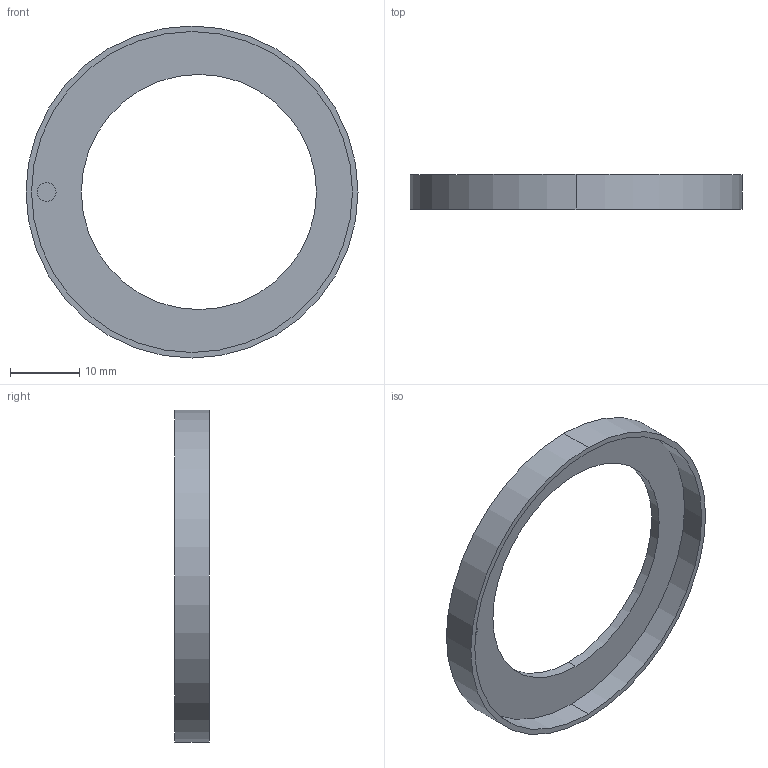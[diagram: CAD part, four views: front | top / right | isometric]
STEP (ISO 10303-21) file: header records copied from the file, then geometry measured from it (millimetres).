
FILE_DESCRIPTION(('Open CASCADE Model'),'2;1');
FILE_NAME('gel-retainer-ring.step','2026-11-14T14:31:58',('Author'),( 'Open CASCADE'),'Open CASCADE STEP processor 8.0','Open CASCADE 8.0' ,'Unknown');
FILE_SCHEMA(('AP242_MANAGED_MODEL_BASED_3D_ENGINEERING_MIM_LF {1 0 10303 442 1 1 4 }' ));
Length unit declared in the file: millimetre
Products named in the file (1): Gel Retainer Ring
Bounding box: 48 x 5 x 48 mm (x, y, z)
Volume: 1770.2 mm3; surface area: 3231.5 mm2
Topology: 1 solids, 1 shells, 12 faces, 24 edges, 16 vertices
Faces by surface type: cylinder 8, plane 4
Entity records: 656 total; most frequent: CARTESIAN_POINT 113, DIRECTION 112, ORIENTED_EDGE 48, PCURVE 48, DEFINITIONAL_REPRESENTATION 48, LINE 40, VECTOR 40, CIRCLE 30
